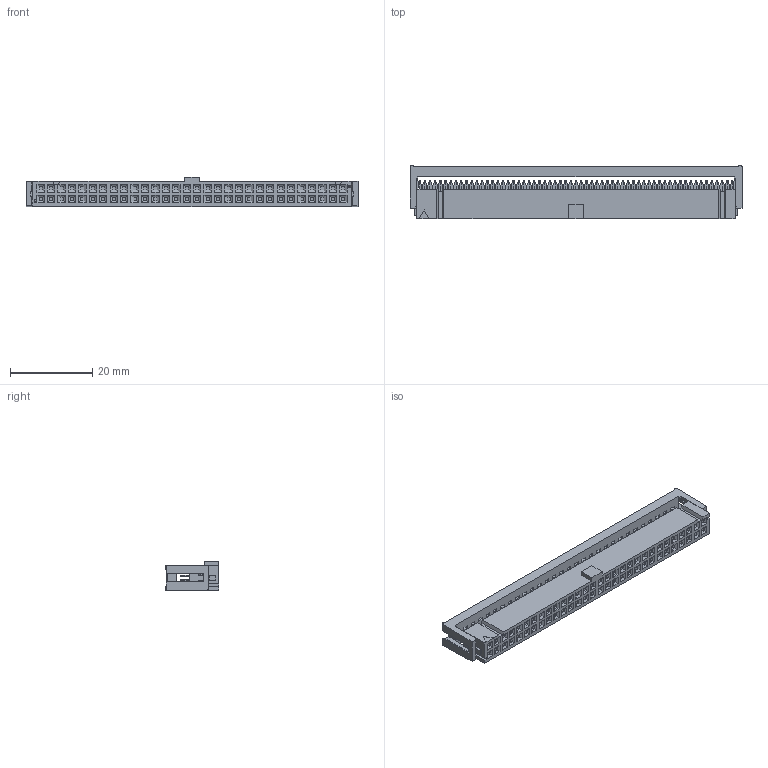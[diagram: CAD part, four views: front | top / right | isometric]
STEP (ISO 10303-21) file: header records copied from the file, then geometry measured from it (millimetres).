
FILE_DESCRIPTION((''),'2;1');
FILE_NAME('906351602','2010-05-28T',('pnb'),(''),'PRO/ENGINEER BY PARAMETRIC TECHNOLOGY CORPORATION, 2003451','PRO/ENGINEER BY PARAMETRIC TECHNOLOGY CORPORATION, 2003451','');
FILE_SCHEMA(('CONFIG_CONTROL_DESIGN'));
Length unit declared in the file: millimetre
Products named in the file (1): 906351602
Bounding box: 80.8 x 13.1 x 7.18 mm (x, y, z)
Volume: 4431.9 mm3; surface area: 4957.6 mm2
Topology: 1 solids, 1 shells, 1748 faces, 4447 edges, 2880 vertices
Faces by surface type: plane 1744, cylinder 4
Entity records: 51561 total; most frequent: CARTESIAN_POINT 9108, ORIENTED_EDGE 8894, DIRECTION 7945, EDGE_CURVE 4447, VECTOR 4439, LINE 4439, VERTEX_POINT 2880, EDGE_LOOP 2053
